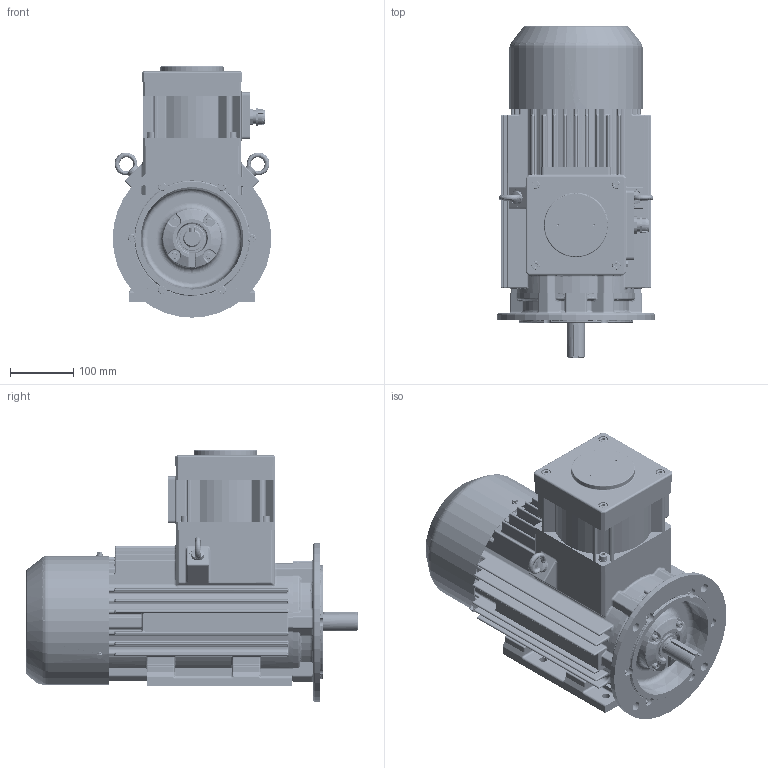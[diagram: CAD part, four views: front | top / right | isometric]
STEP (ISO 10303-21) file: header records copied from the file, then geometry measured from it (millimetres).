
FILE_DESCRIPTION(/* description */ ('Unknown'),/* implementation_level */ '2;1');
FILE_NAME(/* name */ '(E)cSTLe100L(2-8)-IE(2,3)',/* time_stamp */ '2021-12-17T11:49:34+01:00',/* author */ ('Unknown'),/* organization */ ('Unknown'),/* preprocessor_version */ 'ST-DEVELOPER v16.7',/* originating_system */ 'DEX',/* authorisation */ $);
FILE_SCHEMA (('AP242_MANAGED_MODEL_BASED_3D_ENGINEERING_MIM_LF { 1 0 10303 442 1 1 4 }','AUTOMOTIVE_DESIGN {1 0 10303 214 3 1 1}'));
Products named in the file (1): (E)cSTLe100L(2-8)-IE(2,3)
Bounding box: 250 x 523 x 396 mm (x, y, z)
Volume: 16644709.6 mm3; surface area: 1301870.6 mm2
Topology: 3 solids, 26 shells, 4337 faces, 11312 edges, 6969 vertices
Faces by surface type: cylinder 1723, plane 1495, torus 342, bspline 296, cone 290, sphere 191
Full cylindrical faces by diameter (mm): 3.2 x4, 4.019 x3, 4.134 x3, 4.48 x1, 4.773 x4, 4.917 x22, 5 x7, 5.3 x4, 6 x10, 6.466 x18, 6.6 x4, 6.647 x36, 6.88 x4, 8 x38, 8.376 x13, 9 x14, 10 x8, 11 x4, 12 x4, 13 x18, 15 x15, 15.205 x1, 16.779 x1, 17.307 x1, 18.487 x1, 21.24 x1, 22.376 x1, 23.376 x1, 27.4 x1, 28 x3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
Entity records: 157399 total; most frequent: CARTESIAN_POINT 32759, DIRECTION 21689, ORIENTED_EDGE 20658, EDGE_CURVE 10329, AXIS2_PLACEMENT_3D 8425, VERTEX_POINT 6688, FACE_BOUND 5353, EDGE_LOOP 5316
